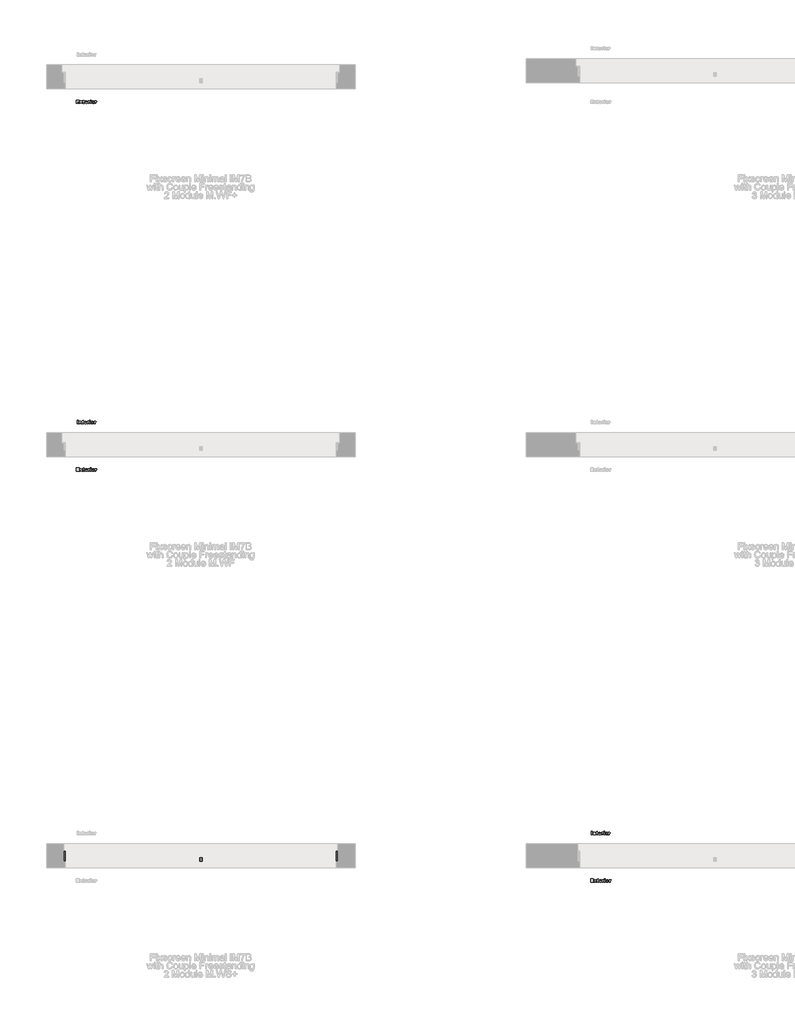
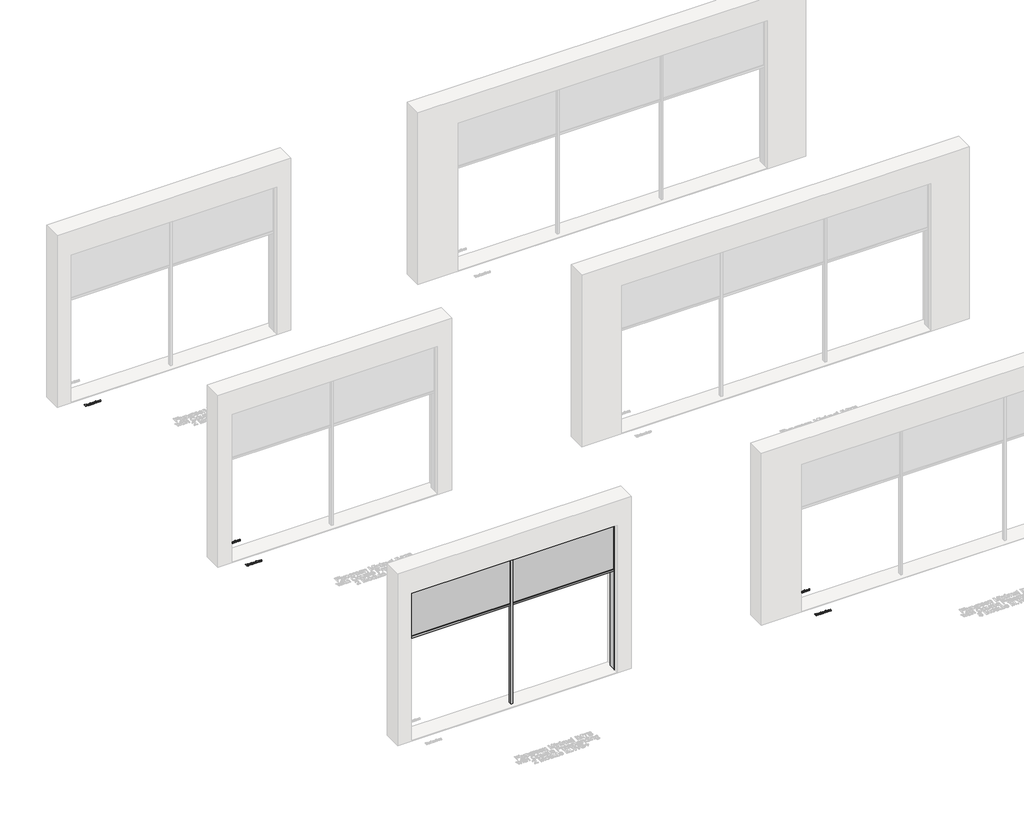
# One storey, part 7 of 14: 6 proxies.
"""IFC4 building model written with IfcOpenShell, lengths in millimetres."""

from ifc_helpers import new_model, si_unit, origin, origin_with_axes, place, context, project, spatial, polyline, outline, extrude, transform, mapped, element, save
from components import generic_models_a8878716

model = new_model("IFC4")

# Units and contexts
model_context = context("Model", 3, world=origin())
ifc_project = project(units=[si_unit("LENGTHUNIT", "METRE", prefix="MILLI")], contexts=[model_context])

# Site, building, storey
site = spatial("IfcSite", under=ifc_project)
building = spatial("IfcBuilding", under=site)
storey = spatial("IfcBuildingStorey", under=building, Name="Fixscreen Mini CF Overview Top", Elevation=0.0)

# Proxies
placement = place(None, origin())
generic_models_shape = generic_models_a8878716(model_context)
element("IfcBuildingElementProxy", 1, Name="Renson_Fixscreen_Minimal_IM7B_With_CF : Recessed - Front of the window - Medium-CF - Access downwards - Fabric away from the window", ObjectType="Renson_Fixscreen_Minimal_IM7B_With_CF : Recessed - Front of the window - Medium-CF - Access downwards - Fabric away from the window", at=placement, inside=storey, context=model_context, shape_type="MappedRepresentation", body=[
    mapped(generic_models_shape, transform((-6342.8595357, 4332.1214664, -790.0), x_axis=(-1.0, 0.0, 0.0), y_axis=(0.0, -1.0, 0.0), z_axis=(0.0, 0.0, 1.0))),
])
element("IfcBuildingElementProxy", 2, Name="50mm Arial", ObjectType="50mm Arial", at=placement, inside=storey, context=model_context, shape_type="SweptSolid", body=[
    extrude(outline(polyline([(-9359.7717135, 15352.5738258), (-9318.4500461, 15352.5738258), (-9318.4500461, 15340.7676351), (-9344.0301259, 15340.7676351), (-9344.0301259, 15335.848389), (-9320.4177446, 15335.848389), (-9320.4177446, 15324.0421983), (-9344.0301259, 15324.0421983), (-9344.0301259, 15314.2037061), (-9317.4661969, 15314.2037061), (-9317.4661969, 15302.3975154), (-9359.7717135, 15302.3975154), (-9359.7717135, 15352.5738258)])), origin_with_axes(), (0.0, 0.0, 1.0), 3.0),
    extrude(outline(polyline([(-9313.5308, 15338.7999367), (-9296.8053632, 15338.7999367), (-9291.3941925, 15328.6539915), (-9283.0314741, 15338.7999367), (-9269.257585, 15338.7999367), (-9281.6786814, 15321.4595941), (-9268.2737357, 15302.3975154), (-9284.0153233, 15302.3975154), (-9291.3941925, 15314.1268429), (-9300.7407601, 15302.3975154), (-9314.5146492, 15302.3975154), (-9301.1097036, 15321.4595941), (-9313.5308, 15338.7999367)])), origin_with_axes(), (0.0, 0.0, 1.0), 3.0),
    extrude(outline(polyline([(-9247.6129021, 15352.5738258), (-9247.6129021, 15338.7999367), (-9239.7421083, 15338.7999367), (-9239.7421083, 15328.9614444), (-9247.6129021, 15328.9614444), (-9247.6129021, 15315.633362), (-9247.182468, 15312.4512246), (-9244.8765714, 15311.2521584), (-9240.7259575, 15312.174517), (-9239.7421083, 15302.5358692), (-9249.1809118, 15301.4136662), (-9256.6673894, 15302.7741452), (-9260.2338429, 15306.9093864), (-9261.3867912, 15315.9100696), (-9261.3867912, 15328.9614444), (-9266.3060373, 15328.9614444), (-9266.3060373, 15338.7999367), (-9261.3867912, 15338.7999367), (-9261.3867912, 15345.4409189), (-9247.6129021, 15352.5738258)])), origin_with_axes(), (0.0, 0.0, 1.0), 3.0),
    extrude(outline(polyline([(-9193.5011948, 15317.9469449), (-9221.048973, 15317.1552537), (-9219.3272369, 15313.1429936), (-9214.3003823, 15311.2521584), (-9210.5802024, 15312.1591444), (-9208.2589331, 15314.2037061), (-9194.485044, 15313.2198568), (-9201.9023448, 15304.1576831), (-9214.3772455, 15301.4136662), (-9225.4609219, 15303.4736005), (-9232.1633947, 15310.0069742), (-9234.8228622, 15320.5372354), (-9229.4654957, 15334.4571647), (-9223.08777, 15338.4521306), (-9214.6693257, 15339.7837859), (-9202.5787411, 15337.401026), (-9195.822464, 15330.4987088), (-9193.5011948, 15317.9469449)]), holes=[polyline([(-9207.2750839, 15324.0421983), (-9209.450313, 15328.5771283), (-9214.1005379, 15329.9452936), (-9219.4041001, 15327.8853593), (-9221.0182277, 15324.0421983), (-9207.2750839, 15324.0421983)])]), origin_with_axes(), (0.0, 0.0, 1.0), 3.0),
    extrude(outline(polyline([(-9187.5980994, 15338.7999367), (-9174.7619416, 15338.7999367), (-9174.7619416, 15332.9429592), (-9170.8496037, 15338.3156984), (-9165.8611807, 15339.7837859), (-9159.066472, 15337.7238516), (-9163.4169302, 15327.9314773), (-9167.3523271, 15328.9614444), (-9171.6412948, 15326.6862931), (-9173.8242103, 15314.680258), (-9173.8242103, 15302.3975154), (-9187.5980994, 15302.3975154), (-9187.5980994, 15338.7999367)])), origin_with_axes(), (0.0, 0.0, 1.0), 3.0),
    extrude(outline(polyline([(-9156.1149243, 15352.5738258), (-9142.3410352, 15352.5738258), (-9142.3410352, 15342.7353335), (-9156.1149243, 15342.7353335), (-9156.1149243, 15352.5738258)])), origin_with_axes(), (0.0, 0.0, 1.0), 3.0),
    extrude(outline(polyline([(-9156.1149243, 15338.7999367), (-9142.3410352, 15338.7999367), (-9142.3410352, 15302.3975154), (-9156.1149243, 15302.3975154), (-9156.1149243, 15338.7999367)])), origin_with_axes(), (0.0, 0.0, 1.0), 3.0),
    extrude(outline(polyline([(-9134.4702414, 15320.4911175), (-9129.0513843, 15334.3418699), (-9122.6775018, 15338.4233069), (-9114.3935682, 15339.7837859), (-9105.1392364, 15338.1850309), (-9098.4675089, 15333.3887659), (-9094.1324232, 15320.7063345), (-9099.5051623, 15306.8248369), (-9105.905947, 15302.7664589), (-9114.3628229, 15301.4136662), (-9128.0598488, 15305.9024782), (-9132.8676432, 15312.3320867), (-9134.4702414, 15320.4911175)]), holes=[polyline([(-9120.6963523, 15320.6140987), (-9118.8746939, 15313.5426824), (-9114.2859597, 15311.2521584), (-9109.6972254, 15313.5119371), (-9107.9063124, 15320.7524525), (-9109.712598, 15327.6701423), (-9114.1937238, 15329.9452936), (-9118.8593213, 15327.639397), (-9120.6963523, 15320.6140987)])]), origin_with_axes(), (0.0, 0.0, 1.0), 3.0),
    extrude(outline(polyline([(-9087.2454787, 15338.7999367), (-9074.4093208, 15338.7999367), (-9074.4093208, 15332.9429592), (-9070.4969829, 15338.3156984), (-9065.5085599, 15339.7837859), (-9058.7138512, 15337.7238516), (-9063.0643095, 15327.9314773), (-9066.9997064, 15328.9614444), (-9071.2886741, 15326.6862931), (-9073.4715895, 15314.680258), (-9073.4715895, 15302.3975154), (-9087.2454787, 15302.3975154), (-9087.2454787, 15338.7999367)])), origin_with_axes(), (0.0, 0.0, 1.0), 3.0),
])
element("IfcBuildingElementProxy", 3, Name="50mm Arial", ObjectType="50mm Arial", at=placement, inside=storey, context=model_context, shape_type="SweptSolid", body=[
    extrude(outline(polyline([(-9359.7717135, 9988.1585284), (-9318.4500461, 9988.1585284), (-9318.4500461, 9976.3523377), (-9344.0301259, 9976.3523377), (-9344.0301259, 9971.4330916), (-9320.4177446, 9971.4330916), (-9320.4177446, 9959.6269009), (-9344.0301259, 9959.6269009), (-9344.0301259, 9949.7884087), (-9317.4661969, 9949.7884087), (-9317.4661969, 9937.982218), (-9359.7717135, 9937.982218), (-9359.7717135, 9988.1585284)])), origin_with_axes(), (0.0, 0.0, 1.0), 3.0),
    extrude(outline(polyline([(-9313.5308, 9974.3846393), (-9296.8053632, 9974.3846393), (-9291.3941925, 9964.2386942), (-9283.0314741, 9974.3846393), (-9269.257585, 9974.3846393), (-9281.6786814, 9957.0442967), (-9268.2737357, 9937.982218), (-9284.0153233, 9937.982218), (-9291.3941925, 9949.7115455), (-9300.7407601, 9937.982218), (-9314.5146492, 9937.982218), (-9301.1097036, 9957.0442967), (-9313.5308, 9974.3846393)])), origin_with_axes(), (0.0, 0.0, 1.0), 3.0),
    extrude(outline(polyline([(-9247.6129021, 9988.1585284), (-9247.6129021, 9974.3846393), (-9239.7421083, 9974.3846393), (-9239.7421083, 9964.5461471), (-9247.6129021, 9964.5461471), (-9247.6129021, 9951.2180646), (-9247.182468, 9948.0359273), (-9244.8765714, 9946.836861), (-9240.7259575, 9947.7592197), (-9239.7421083, 9938.1205718), (-9249.1809118, 9936.9983688), (-9256.6673894, 9938.3588478), (-9260.2338429, 9942.4940891), (-9261.3867912, 9951.4947722), (-9261.3867912, 9964.5461471), (-9266.3060373, 9964.5461471), (-9266.3060373, 9974.3846393), (-9261.3867912, 9974.3846393), (-9261.3867912, 9981.0256216), (-9247.6129021, 9988.1585284)])), origin_with_axes(), (0.0, 0.0, 1.0), 3.0),
    extrude(outline(polyline([(-9193.5011948, 9953.5316476), (-9221.048973, 9952.7399564), (-9219.3272369, 9948.7276963), (-9214.3003823, 9946.836861), (-9210.5802024, 9947.743847), (-9208.2589331, 9949.7884087), (-9194.485044, 9948.8045595), (-9201.9023448, 9939.7423858), (-9214.3772455, 9936.9983688), (-9225.4609219, 9939.0583031), (-9232.1633947, 9945.5916769), (-9234.8228622, 9956.1219381), (-9229.4654957, 9970.0418673), (-9223.08777, 9974.0368332), (-9214.6693257, 9975.3684885), (-9202.5787411, 9972.9857287), (-9195.822464, 9966.0834115), (-9193.5011948, 9953.5316476)]), holes=[polyline([(-9207.2750839, 9959.6269009), (-9209.450313, 9964.161831), (-9214.1005379, 9965.5299963), (-9219.4041001, 9963.470062), (-9221.0182277, 9959.6269009), (-9207.2750839, 9959.6269009)])]), origin_with_axes(), (0.0, 0.0, 1.0), 3.0),
    extrude(outline(polyline([(-9187.5980994, 9974.3846393), (-9174.7619416, 9974.3846393), (-9174.7619416, 9968.5276619), (-9170.8496037, 9973.900401), (-9165.8611807, 9975.3684885), (-9159.066472, 9973.3085542), (-9163.4169302, 9963.5161799), (-9167.3523271, 9964.5461471), (-9171.6412948, 9962.2709957), (-9173.8242103, 9950.2649607), (-9173.8242103, 9937.982218), (-9187.5980994, 9937.982218), (-9187.5980994, 9974.3846393)])), origin_with_axes(), (0.0, 0.0, 1.0), 3.0),
    extrude(outline(polyline([(-9156.1149243, 9988.1585284), (-9142.3410352, 9988.1585284), (-9142.3410352, 9978.3200362), (-9156.1149243, 9978.3200362), (-9156.1149243, 9988.1585284)])), origin_with_axes(), (0.0, 0.0, 1.0), 3.0),
    extrude(outline(polyline([(-9156.1149243, 9974.3846393), (-9142.3410352, 9974.3846393), (-9142.3410352, 9937.982218), (-9156.1149243, 9937.982218), (-9156.1149243, 9974.3846393)])), origin_with_axes(), (0.0, 0.0, 1.0), 3.0),
    extrude(outline(polyline([(-9134.4702414, 9956.0758202), (-9129.0513843, 9969.9265725), (-9122.6775018, 9974.0080095), (-9114.3935682, 9975.3684885), (-9105.1392364, 9973.7697335), (-9098.4675089, 9968.9734686), (-9094.1324232, 9956.2910372), (-9099.5051623, 9942.4095395), (-9105.905947, 9938.3511615), (-9114.3628229, 9936.9983688), (-9128.0598488, 9941.4871809), (-9132.8676432, 9947.9167893), (-9134.4702414, 9956.0758202)]), holes=[polyline([(-9120.6963523, 9956.1988013), (-9118.8746939, 9949.127385), (-9114.2859597, 9946.836861), (-9109.6972254, 9949.0966397), (-9107.9063124, 9956.3371551), (-9109.712598, 9963.254845), (-9114.1937238, 9965.5299963), (-9118.8593213, 9963.2240997), (-9120.6963523, 9956.1988013)])]), origin_with_axes(), (0.0, 0.0, 1.0), 3.0),
    extrude(outline(polyline([(-9087.2454787, 9974.3846393), (-9074.4093208, 9974.3846393), (-9074.4093208, 9968.5276619), (-9070.4969829, 9973.900401), (-9065.5085599, 9975.3684885), (-9058.7138512, 9973.3085542), (-9063.0643095, 9963.5161799), (-9066.9997064, 9964.5461471), (-9071.2886741, 9962.2709957), (-9073.4715895, 9950.2649607), (-9073.4715895, 9937.982218), (-9087.2454787, 9937.982218), (-9087.2454787, 9974.3846393)])), origin_with_axes(), (0.0, 0.0, 1.0), 3.0),
])
element("IfcBuildingElementProxy", 4, Name="50mm Arial", ObjectType="50mm Arial", at=placement, inside=storey, context=model_context, shape_type="SweptSolid", body=[
    extrude(outline(polyline([(-9347.4735982, 10678.4508797), (-9331.7320107, 10678.4508797), (-9331.7320107, 10628.2745694), (-9347.4735982, 10628.2745694), (-9347.4735982, 10678.4508797)])), origin_with_axes(), (0.0, 0.0, 1.0), 3.0),
    extrude(outline(polyline([(-9321.8935184, 10664.6769906), (-9309.0727332, 10664.6769906), (-9309.0727332, 10658.9122491), (-9303.1619516, 10664.1005165), (-9295.8830046, 10665.6608398), (-9286.8054582, 10662.2019949), (-9283.5233987, 10651.5180073), (-9283.5233987, 10628.2745694), (-9297.2972878, 10628.2745694), (-9297.2972878, 10648.504969), (-9298.6039626, 10653.4011562), (-9302.2626519, 10654.8384984), (-9306.4978153, 10652.9015452), (-9308.1196293, 10645.9377374), (-9308.1196293, 10628.2745694), (-9321.8935184, 10628.2745694), (-9321.8935184, 10664.6769906)])), origin_with_axes(), (0.0, 0.0, 1.0), 3.0),
    extrude(outline(polyline([(-9258.9271681, 10678.4508797), (-9258.9271681, 10664.6769906), (-9251.0563743, 10664.6769906), (-9251.0563743, 10654.8384984), (-9258.9271681, 10654.8384984), (-9258.9271681, 10641.5104159), (-9258.4967341, 10638.3282786), (-9256.1908375, 10637.1292124), (-9252.0402236, 10638.051571), (-9251.0563743, 10628.4129232), (-9260.4951778, 10627.2907201), (-9267.9816555, 10628.6511991), (-9271.5481089, 10632.7864404), (-9272.7010573, 10641.7871235), (-9272.7010573, 10654.8384984), (-9277.6203034, 10654.8384984), (-9277.6203034, 10664.6769906), (-9272.7010573, 10664.6769906), (-9272.7010573, 10671.3179729), (-9258.9271681, 10678.4508797)])), origin_with_axes(), (0.0, 0.0, 1.0), 3.0),
    extrude(outline(polyline([(-9204.8154608, 10643.8239989), (-9232.3632391, 10643.0323077), (-9230.641503, 10639.0200476), (-9225.6146483, 10637.1292124), (-9221.8944685, 10638.0361984), (-9219.5731992, 10640.08076), (-9205.7993101, 10639.0969108), (-9213.2166109, 10630.0347371), (-9225.6915116, 10627.2907201), (-9236.775188, 10629.3506544), (-9243.4776608, 10635.8840282), (-9246.1371282, 10646.4142894), (-9240.7797618, 10660.3342187), (-9234.402036, 10664.3291845), (-9225.9835918, 10665.6608398), (-9213.8930072, 10663.27808), (-9207.1367301, 10656.3757628), (-9204.8154608, 10643.8239989)]), holes=[polyline([(-9218.58935, 10649.9192523), (-9220.7645791, 10654.4541823), (-9225.414804, 10655.8223476), (-9230.7183662, 10653.7624133), (-9232.3324938, 10649.9192523), (-9218.58935, 10649.9192523)])]), origin_with_axes(), (0.0, 0.0, 1.0), 3.0),
    extrude(outline(polyline([(-9198.9123655, 10664.6769906), (-9186.0762077, 10664.6769906), (-9186.0762077, 10658.8200132), (-9182.1638697, 10664.1927523), (-9177.1754467, 10665.6608398), (-9170.380738, 10663.6009055), (-9174.7311963, 10653.8085312), (-9178.6665932, 10654.8384984), (-9182.9555609, 10652.5633471), (-9185.1384764, 10640.557312), (-9185.1384764, 10628.2745694), (-9198.9123655, 10628.2745694), (-9198.9123655, 10664.6769906)])), origin_with_axes(), (0.0, 0.0, 1.0), 3.0),
    extrude(outline(polyline([(-9167.4291904, 10678.4508797), (-9153.6553012, 10678.4508797), (-9153.6553012, 10668.6123875), (-9167.4291904, 10668.6123875), (-9167.4291904, 10678.4508797)])), origin_with_axes(), (0.0, 0.0, 1.0), 3.0),
    extrude(outline(polyline([(-9167.4291904, 10664.6769906), (-9153.6553012, 10664.6769906), (-9153.6553012, 10628.2745694), (-9167.4291904, 10628.2745694), (-9167.4291904, 10664.6769906)])), origin_with_axes(), (0.0, 0.0, 1.0), 3.0),
    extrude(outline(polyline([(-9145.7845074, 10646.3681715), (-9140.3656504, 10660.2189238), (-9133.9917678, 10664.3003608), (-9125.7078342, 10665.6608398), (-9116.4535025, 10664.0620849), (-9109.7817749, 10659.2658199), (-9105.4466893, 10646.5833885), (-9110.8194284, 10632.7018909), (-9117.2202131, 10628.6435128), (-9125.6770889, 10627.2907201), (-9139.3741149, 10631.7795322), (-9144.1819093, 10638.2091406), (-9145.7845074, 10646.3681715)]), holes=[polyline([(-9132.0106183, 10646.4911526), (-9130.18896, 10639.4197363), (-9125.6002257, 10637.1292124), (-9121.0114915, 10639.388991), (-9119.2205784, 10646.6295064), (-9121.0268641, 10653.5471963), (-9125.5079899, 10655.8223476), (-9130.1735874, 10653.516451), (-9132.0106183, 10646.4911526)])]), origin_with_axes(), (0.0, 0.0, 1.0), 3.0),
    extrude(outline(polyline([(-9098.5597447, 10664.6769906), (-9085.7235869, 10664.6769906), (-9085.7235869, 10658.8200132), (-9081.811249, 10664.1927523), (-9076.822826, 10665.6608398), (-9070.0281173, 10663.6009055), (-9074.3785755, 10653.8085312), (-9078.3139724, 10654.8384984), (-9082.6029401, 10652.5633471), (-9084.7858556, 10640.557312), (-9084.7858556, 10628.2745694), (-9098.5597447, 10628.2745694), (-9098.5597447, 10664.6769906)])), origin_with_axes(), (0.0, 0.0, 1.0), 3.0),
])
element("IfcBuildingElementProxy", 5, Name="50mm Arial", ObjectType="50mm Arial", at=placement, inside=storey, context=model_context, shape_type="SweptSolid", body=[
    extrude(outline(polyline([(-1859.7717135, 3993.7432311), (-1818.4500461, 3993.7432311), (-1818.4500461, 3981.9370404), (-1844.0301259, 3981.9370404), (-1844.0301259, 3977.0177943), (-1820.4177446, 3977.0177943), (-1820.4177446, 3965.2116036), (-1844.0301259, 3965.2116036), (-1844.0301259, 3955.3731114), (-1817.4661969, 3955.3731114), (-1817.4661969, 3943.5669207), (-1859.7717135, 3943.5669207), (-1859.7717135, 3993.7432311)])), origin_with_axes(), (0.0, 0.0, 1.0), 3.0),
    extrude(outline(polyline([(-1813.5308, 3979.9693419), (-1796.8053632, 3979.9693419), (-1791.3941925, 3969.8233968), (-1783.0314741, 3979.9693419), (-1769.257585, 3979.9693419), (-1781.6786814, 3962.6289994), (-1768.2737357, 3943.5669207), (-1784.0153233, 3943.5669207), (-1791.3941925, 3955.2962481), (-1800.7407601, 3943.5669207), (-1814.5146492, 3943.5669207), (-1801.1097036, 3962.6289994), (-1813.5308, 3979.9693419)])), origin_with_axes(), (0.0, 0.0, 1.0), 3.0),
    extrude(outline(polyline([(-1747.6129021, 3993.7432311), (-1747.6129021, 3979.9693419), (-1739.7421083, 3979.9693419), (-1739.7421083, 3970.1308497), (-1747.6129021, 3970.1308497), (-1747.6129021, 3956.8027673), (-1747.182468, 3953.6206299), (-1744.8765714, 3952.4215637), (-1740.7259575, 3953.3439223), (-1739.7421083, 3943.7052745), (-1749.1809118, 3942.5830715), (-1756.6673894, 3943.9435505), (-1760.2338429, 3948.0787917), (-1761.3867912, 3957.0794749), (-1761.3867912, 3970.1308497), (-1766.3060373, 3970.1308497), (-1766.3060373, 3979.9693419), (-1761.3867912, 3979.9693419), (-1761.3867912, 3986.6103242), (-1747.6129021, 3993.7432311)])), origin_with_axes(), (0.0, 0.0, 1.0), 3.0),
    extrude(outline(polyline([(-1693.5011948, 3959.1163502), (-1721.048973, 3958.324659), (-1719.3272369, 3954.3123989), (-1714.3003823, 3952.4215637), (-1710.5802024, 3953.3285497), (-1708.2589331, 3955.3731114), (-1694.485044, 3954.3892621), (-1701.9023448, 3945.3270884), (-1714.3772455, 3942.5830715), (-1725.4609219, 3944.6430058), (-1732.1633947, 3951.1763795), (-1734.8228622, 3961.7066407), (-1729.4654957, 3975.62657), (-1723.08777, 3979.6215359), (-1714.6693257, 3980.9531912), (-1702.5787411, 3978.5704313), (-1695.822464, 3971.6681141), (-1693.5011948, 3959.1163502)]), holes=[polyline([(-1707.2750839, 3965.2116036), (-1709.450313, 3969.7465336), (-1714.1005379, 3971.1146989), (-1719.4041001, 3969.0547646), (-1721.0182277, 3965.2116036), (-1707.2750839, 3965.2116036)])]), origin_with_axes(), (0.0, 0.0, 1.0), 3.0),
    extrude(outline(polyline([(-1687.5980994, 3979.9693419), (-1674.7619416, 3979.9693419), (-1674.7619416, 3974.1123645), (-1670.8496037, 3979.4851036), (-1665.8611807, 3980.9531912), (-1659.066472, 3978.8932568), (-1663.4169302, 3969.1008825), (-1667.3523271, 3970.1308497), (-1671.6412948, 3967.8556984), (-1673.8242103, 3955.8496633), (-1673.8242103, 3943.5669207), (-1687.5980994, 3943.5669207), (-1687.5980994, 3979.9693419)])), origin_with_axes(), (0.0, 0.0, 1.0), 3.0),
    extrude(outline(polyline([(-1656.1149243, 3993.7432311), (-1642.3410352, 3993.7432311), (-1642.3410352, 3983.9047388), (-1656.1149243, 3983.9047388), (-1656.1149243, 3993.7432311)])), origin_with_axes(), (0.0, 0.0, 1.0), 3.0),
    extrude(outline(polyline([(-1656.1149243, 3979.9693419), (-1642.3410352, 3979.9693419), (-1642.3410352, 3943.5669207), (-1656.1149243, 3943.5669207), (-1656.1149243, 3979.9693419)])), origin_with_axes(), (0.0, 0.0, 1.0), 3.0),
    extrude(outline(polyline([(-1634.4702414, 3961.6605228), (-1629.0513843, 3975.5112751), (-1622.6775018, 3979.5927122), (-1614.3935682, 3980.9531912), (-1605.1392364, 3979.3544362), (-1598.4675089, 3974.5581712), (-1594.1324232, 3961.8757398), (-1599.5051623, 3947.9942422), (-1605.905947, 3943.9358641), (-1614.3628229, 3942.5830715), (-1628.0598488, 3947.0718835), (-1632.8676432, 3953.5014919), (-1634.4702414, 3961.6605228)]), holes=[polyline([(-1620.6963523, 3961.7835039), (-1618.8746939, 3954.7120877), (-1614.2859597, 3952.4215637), (-1609.6972254, 3954.6813424), (-1607.9063124, 3961.9218577), (-1609.712598, 3968.8395476), (-1614.1937238, 3971.1146989), (-1618.8593213, 3968.8088023), (-1620.6963523, 3961.7835039)])]), origin_with_axes(), (0.0, 0.0, 1.0), 3.0),
    extrude(outline(polyline([(-1587.2454787, 3979.9693419), (-1574.4093208, 3979.9693419), (-1574.4093208, 3974.1123645), (-1570.4969829, 3979.4851036), (-1565.5085599, 3980.9531912), (-1558.7138512, 3978.8932568), (-1563.0643095, 3969.1008825), (-1566.9997064, 3970.1308497), (-1571.2886741, 3967.8556984), (-1573.4715895, 3955.8496633), (-1573.4715895, 3943.5669207), (-1587.2454787, 3943.5669207), (-1587.2454787, 3979.9693419)])), origin_with_axes(), (0.0, 0.0, 1.0), 3.0),
])
element("IfcBuildingElementProxy", 6, Name="50mm Arial", ObjectType="50mm Arial", at=placement, inside=storey, context=model_context, shape_type="SweptSolid", body=[
    extrude(outline(polyline([(-1847.4735982, 4684.0355824), (-1831.7320107, 4684.0355824), (-1831.7320107, 4633.859272), (-1847.4735982, 4633.859272), (-1847.4735982, 4684.0355824)])), origin_with_axes(), (0.0, 0.0, 1.0), 3.0),
    extrude(outline(polyline([(-1821.8935184, 4670.2616933), (-1809.0727332, 4670.2616933), (-1809.0727332, 4664.4969517), (-1803.1619516, 4669.6852191), (-1795.8830046, 4671.2455425), (-1786.8054582, 4667.7866976), (-1783.5233987, 4657.1027099), (-1783.5233987, 4633.859272), (-1797.2972878, 4633.859272), (-1797.2972878, 4654.0896716), (-1798.6039626, 4658.9858588), (-1802.2626519, 4660.423201), (-1806.4978153, 4658.4862479), (-1808.1196293, 4651.5224401), (-1808.1196293, 4633.859272), (-1821.8935184, 4633.859272), (-1821.8935184, 4670.2616933)])), origin_with_axes(), (0.0, 0.0, 1.0), 3.0),
    extrude(outline(polyline([(-1758.9271681, 4684.0355824), (-1758.9271681, 4670.2616933), (-1751.0563743, 4670.2616933), (-1751.0563743, 4660.423201), (-1758.9271681, 4660.423201), (-1758.9271681, 4647.0951186), (-1758.4967341, 4643.9129812), (-1756.1908375, 4642.713915), (-1752.0402236, 4643.6362737), (-1751.0563743, 4633.9976258), (-1760.4951778, 4632.8754228), (-1767.9816555, 4634.2359018), (-1771.5481089, 4638.371143), (-1772.7010573, 4647.3718262), (-1772.7010573, 4660.423201), (-1777.6203034, 4660.423201), (-1777.6203034, 4670.2616933), (-1772.7010573, 4670.2616933), (-1772.7010573, 4676.9026755), (-1758.9271681, 4684.0355824)])), origin_with_axes(), (0.0, 0.0, 1.0), 3.0),
    extrude(outline(polyline([(-1704.8154608, 4649.4087015), (-1732.3632391, 4648.6170103), (-1730.641503, 4644.6047502), (-1725.6146483, 4642.713915), (-1721.8944685, 4643.620901), (-1719.5731992, 4645.6654627), (-1705.7993101, 4644.6816135), (-1713.2166109, 4635.6194397), (-1725.6915116, 4632.8754228), (-1736.775188, 4634.9353571), (-1743.4776608, 4641.4687308), (-1746.1371282, 4651.9989921), (-1740.7797618, 4665.9189213), (-1734.402036, 4669.9138872), (-1725.9835918, 4671.2455425), (-1713.8930072, 4668.8627826), (-1707.1367301, 4661.9604654), (-1704.8154608, 4649.4087015)]), holes=[polyline([(-1718.58935, 4655.5039549), (-1720.7645791, 4660.0388849), (-1725.414804, 4661.4070502), (-1730.7183662, 4659.3471159), (-1732.3324938, 4655.5039549), (-1718.58935, 4655.5039549)])]), origin_with_axes(), (0.0, 0.0, 1.0), 3.0),
    extrude(outline(polyline([(-1698.9123655, 4670.2616933), (-1686.0762077, 4670.2616933), (-1686.0762077, 4664.4047158), (-1682.1638697, 4669.777455), (-1677.1754467, 4671.2455425), (-1670.380738, 4669.1856082), (-1674.7311963, 4659.3932339), (-1678.6665932, 4660.423201), (-1682.9555609, 4658.1480497), (-1685.1384764, 4646.1420146), (-1685.1384764, 4633.859272), (-1698.9123655, 4633.859272), (-1698.9123655, 4670.2616933)])), origin_with_axes(), (0.0, 0.0, 1.0), 3.0),
    extrude(outline(polyline([(-1667.4291904, 4684.0355824), (-1653.6553012, 4684.0355824), (-1653.6553012, 4674.1970902), (-1667.4291904, 4674.1970902), (-1667.4291904, 4684.0355824)])), origin_with_axes(), (0.0, 0.0, 1.0), 3.0),
    extrude(outline(polyline([(-1667.4291904, 4670.2616933), (-1653.6553012, 4670.2616933), (-1653.6553012, 4633.859272), (-1667.4291904, 4633.859272), (-1667.4291904, 4670.2616933)])), origin_with_axes(), (0.0, 0.0, 1.0), 3.0),
    extrude(outline(polyline([(-1645.7845074, 4651.9528741), (-1640.3656504, 4665.8036265), (-1633.9917678, 4669.8850635), (-1625.7078342, 4671.2455425), (-1616.4535025, 4669.6467875), (-1609.7817749, 4664.8505225), (-1605.4466893, 4652.1680911), (-1610.8194284, 4638.2865935), (-1617.2202131, 4634.2282155), (-1625.6770889, 4632.8754228), (-1639.3741149, 4637.3642349), (-1644.1819093, 4643.7938433), (-1645.7845074, 4651.9528741)]), holes=[polyline([(-1632.0106183, 4652.0758553), (-1630.18896, 4645.004439), (-1625.6002257, 4642.713915), (-1621.0114915, 4644.9736937), (-1619.2205784, 4652.2142091), (-1621.0268641, 4659.1318989), (-1625.5079899, 4661.4070502), (-1630.1735874, 4659.1011536), (-1632.0106183, 4652.0758553)])]), origin_with_axes(), (0.0, 0.0, 1.0), 3.0),
    extrude(outline(polyline([(-1598.5597447, 4670.2616933), (-1585.7235869, 4670.2616933), (-1585.7235869, 4664.4047158), (-1581.811249, 4669.777455), (-1576.822826, 4671.2455425), (-1570.0281173, 4669.1856082), (-1574.3785755, 4659.3932339), (-1578.3139724, 4660.423201), (-1582.6029401, 4658.1480497), (-1584.7858556, 4646.1420146), (-1584.7858556, 4633.859272), (-1598.5597447, 4633.859272), (-1598.5597447, 4670.2616933)])), origin_with_axes(), (0.0, 0.0, 1.0), 3.0),
])

save(model, "model.ifc")
